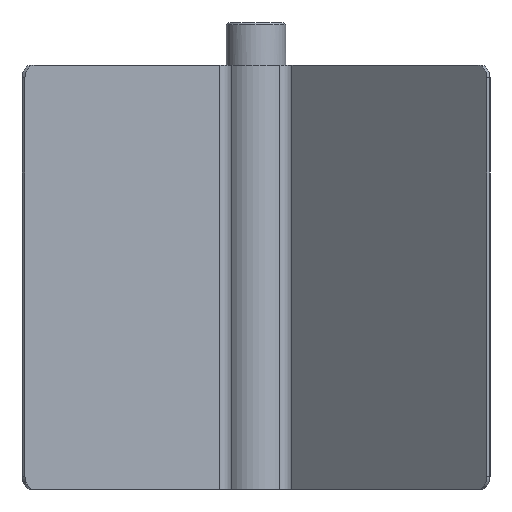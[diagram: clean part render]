
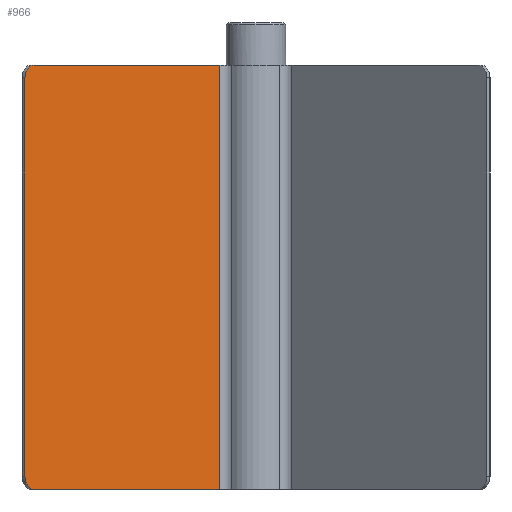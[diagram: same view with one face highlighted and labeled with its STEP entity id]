
A CAD part, front view. The second image highlights one B-rep face of the part: STEP entity #966.
In plain terms, the highlighted planar face has unit normal (0.707, -0.707, 0).
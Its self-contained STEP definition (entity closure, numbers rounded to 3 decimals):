
#39=PLANE('',#1081);
#75=FACE_OUTER_BOUND('',#124,.T.);
#124=EDGE_LOOP('',(#741,#742,#743,#744,#745,#746));
#188=LINE('',#1552,#261);
#197=LINE('',#1584,#270);
#201=LINE('',#1606,#274);
#202=LINE('',#1607,#275);
#261=VECTOR('',#1259,10.);
#270=VECTOR('',#1290,10.);
#274=VECTOR('',#1314,10.);
#275=VECTOR('',#1315,10.);
#329=CIRCLE('',#1066,3.);
#331=CIRCLE('',#1070,3.);
#404=VERTEX_POINT('',#1549);
#405=VERTEX_POINT('',#1551);
#411=VERTEX_POINT('',#1565);
#415=VERTEX_POINT('',#1577);
#416=VERTEX_POINT('',#1578);
#417=VERTEX_POINT('',#1583);
#515=EDGE_CURVE('',#404,#405,#188,.T.);
#522=EDGE_CURVE('',#405,#411,#329,.T.);
#528=EDGE_CURVE('',#415,#416,#331,.T.);
#531=EDGE_CURVE('',#416,#417,#197,.T.);
#543=EDGE_CURVE('',#417,#404,#201,.T.);
#544=EDGE_CURVE('',#411,#415,#202,.T.);
#741=ORIENTED_EDGE('',*,*,#522,.F.);
#742=ORIENTED_EDGE('',*,*,#515,.F.);
#743=ORIENTED_EDGE('',*,*,#543,.F.);
#744=ORIENTED_EDGE('',*,*,#531,.F.);
#745=ORIENTED_EDGE('',*,*,#528,.F.);
#746=ORIENTED_EDGE('',*,*,#544,.F.);
#966=ADVANCED_FACE('',(#75),#39,.T.);
#1066=AXIS2_PLACEMENT_3D('',#1566,#1272,#1273);
#1070=AXIS2_PLACEMENT_3D('',#1579,#1284,#1285);
#1081=AXIS2_PLACEMENT_3D('',#1605,#1312,#1313);
#1259=DIRECTION('',(-0.707,-0.707,0.));
#1272=DIRECTION('center_axis',(-0.707,0.707,0.));
#1273=DIRECTION('ref_axis',(-0.5,-0.5,-0.707));
#1284=DIRECTION('center_axis',(-0.707,0.707,0.));
#1285=DIRECTION('ref_axis',(-0.5,-0.5,0.707));
#1290=DIRECTION('',(0.707,0.707,0.));
#1312=DIRECTION('center_axis',(0.707,-0.707,0.));
#1313=DIRECTION('ref_axis',(0.707,0.707,0.));
#1314=DIRECTION('',(0.,0.,-1.));
#1315=DIRECTION('',(0.,0.,1.));
#1549=CARTESIAN_POINT('',(-8.485,-5.657,-95.));
#1551=CARTESIAN_POINT('',(-52.326,-49.497,-95.));
#1552=CARTESIAN_POINT('',(-54.447,-51.619,-95.));
#1565=CARTESIAN_POINT('',(-54.447,-51.619,-92.));
#1566=CARTESIAN_POINT('Origin',(-52.326,-49.497,-92.));
#1577=CARTESIAN_POINT('',(-54.447,-51.619,2.));
#1578=CARTESIAN_POINT('',(-52.326,-49.497,5.));
#1579=CARTESIAN_POINT('Origin',(-52.326,-49.497,2.));
#1583=CARTESIAN_POINT('',(-8.485,-5.657,5.));
#1584=CARTESIAN_POINT('',(-54.447,-51.619,5.));
#1605=CARTESIAN_POINT('Origin',(-54.447,-51.619,-45.));
#1606=CARTESIAN_POINT('',(-8.485,-5.657,-45.));
#1607=CARTESIAN_POINT('',(-54.447,-51.619,-45.));
